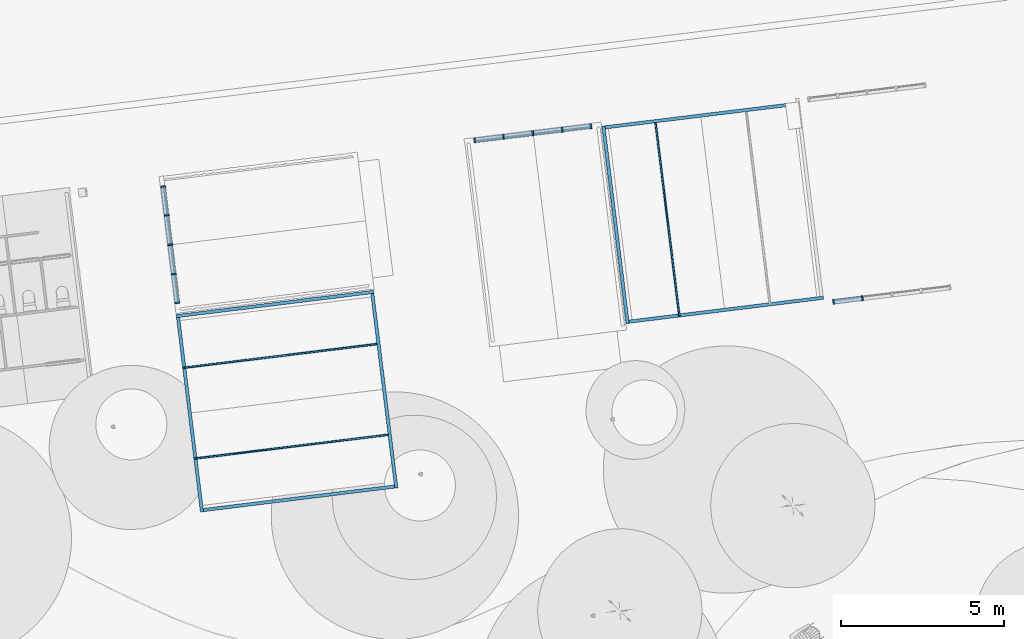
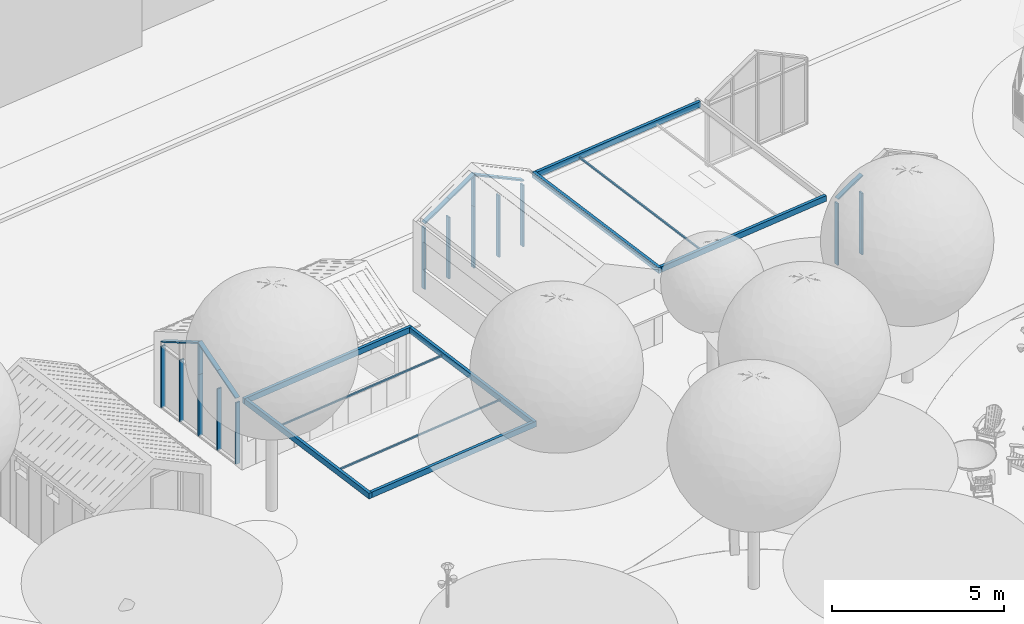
# One storey, part 1 of 75: 23 members, 10 beams, 3 elements without a shape of their own.
"""IFC2X3 building model written with IfcOpenShell, lengths in metres."""

from ifc_helpers import new_model, entity, si_unit, converted_unit, derived_unit, direction, frame, frame_2d, origin, origin_2d_with_axis, place, context, subcontext, project, spatial, rectangle, extrude, clip, halfspace, source, transform, mapped, material, type_object, type_shapes, element, aggregate, save


model = new_model("IFC2X3")

# Units and contexts
model_context = context("Model", 3, precision=1e-05, world=origin(), true_north=direction((6.123031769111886e-17, 1.0)))
body_context = subcontext(model_context, "Body", "Model", "MODEL_VIEW")
ifc_project = project(units=[si_unit("LENGTHUNIT", "METRE"), si_unit("AREAUNIT", "SQUARE_METRE"), si_unit("VOLUMEUNIT", "CUBIC_METRE"), converted_unit("PLANEANGLEUNIT", "DEGREE", entity("IfcRatioMeasure", 0.017453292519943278), si_unit("PLANEANGLEUNIT", "RADIAN"), dimensions=[0, 0, 0, 0, 0, 0, 0]), si_unit("MASSUNIT", "GRAM", prefix="KILO"), derived_unit("MASSDENSITYUNIT", [(si_unit("MASSUNIT", "GRAM", prefix="KILO"), 1), (si_unit("LENGTHUNIT", "METRE"), -3)]), derived_unit("IONCONCENTRATIONUNIT", [(si_unit("MASSUNIT", "GRAM", prefix="KILO"), 1), (si_unit("LENGTHUNIT", "METRE"), -3)]), derived_unit("MOMENTOFINERTIAUNIT", [(si_unit("LENGTHUNIT", "METRE"), 4)]), si_unit("TIMEUNIT", "SECOND"), si_unit("FREQUENCYUNIT", "HERTZ"), si_unit("THERMODYNAMICTEMPERATUREUNIT", "DEGREE_CELSIUS"), derived_unit("THERMALTRANSMITTANCEUNIT", [(si_unit("MASSUNIT", "GRAM", prefix="KILO"), 1), (si_unit("THERMODYNAMICTEMPERATUREUNIT", "KELVIN"), -1), (si_unit("TIMEUNIT", "SECOND"), -3)]), derived_unit("THERMALCONDUCTANCEUNIT", [(si_unit("MASSUNIT", "GRAM", prefix="KILO"), 1), (si_unit("THERMODYNAMICTEMPERATUREUNIT", "KELVIN"), -1), (si_unit("TIMEUNIT", "SECOND"), -3), (si_unit("LENGTHUNIT", "METRE"), 1)]), derived_unit("VOLUMETRICFLOWRATEUNIT", [(si_unit("LENGTHUNIT", "METRE"), 3), (si_unit("TIMEUNIT", "SECOND"), -1)]), derived_unit("MASSFLOWRATEUNIT", [(si_unit("MASSUNIT", "GRAM", prefix="KILO"), 1), (si_unit("TIMEUNIT", "SECOND"), -1)]), derived_unit("ROTATIONALFREQUENCYUNIT", [(si_unit("TIMEUNIT", "SECOND"), -1)]), si_unit("ELECTRICCURRENTUNIT", "AMPERE"), si_unit("ELECTRICVOLTAGEUNIT", "VOLT"), si_unit("POWERUNIT", "WATT"), si_unit("FORCEUNIT", "NEWTON", prefix="KILO"), si_unit("ILLUMINANCEUNIT", "LUX"), si_unit("LUMINOUSFLUXUNIT", "LUMEN"), si_unit("LUMINOUSINTENSITYUNIT", "CANDELA"), derived_unit("USERDEFINED", [(si_unit("MASSUNIT", "GRAM", prefix="KILO"), -1), (si_unit("LENGTHUNIT", "METRE"), -2), (si_unit("TIMEUNIT", "SECOND"), 3), (si_unit("LUMINOUSFLUXUNIT", "LUMEN"), 1)]), derived_unit("USERDEFINED", [(si_unit("MASSUNIT", "GRAM", prefix="KILO"), 1), (si_unit("TIMEUNIT", "SECOND"), -3), (si_unit("LENGTHUNIT", "METRE"), 3), (si_unit("ELECTRICCURRENTUNIT", "AMPERE"), -2)]), derived_unit("SOUNDPOWERUNIT", [(si_unit("MASSUNIT", "GRAM", prefix="KILO"), 1), (si_unit("TIMEUNIT", "SECOND"), -3), (si_unit("LENGTHUNIT", "METRE"), 2)]), derived_unit("SOUNDPRESSUREUNIT", [(si_unit("MASSUNIT", "GRAM", prefix="KILO"), 1), (si_unit("LENGTHUNIT", "METRE"), -1), (si_unit("TIMEUNIT", "SECOND"), -2)]), derived_unit("LINEARVELOCITYUNIT", [(si_unit("LENGTHUNIT", "METRE"), 1), (si_unit("TIMEUNIT", "SECOND"), -1)]), si_unit("PRESSUREUNIT", "PASCAL"), derived_unit("USERDEFINED", [(si_unit("MASSUNIT", "GRAM", prefix="KILO"), 1), (si_unit("LENGTHUNIT", "METRE"), -2), (si_unit("TIMEUNIT", "SECOND"), -2)]), derived_unit("LINEARFORCEUNIT", [(si_unit("MASSUNIT", "GRAM", prefix="KILO"), 1), (si_unit("TIMEUNIT", "SECOND"), -2)]), derived_unit("PLANARFORCEUNIT", [(si_unit("MASSUNIT", "GRAM", prefix="KILO"), 1), (si_unit("LENGTHUNIT", "METRE"), -1), (si_unit("TIMEUNIT", "SECOND"), -2)]), derived_unit("SPECIFICHEATCAPACITYUNIT", [(si_unit("THERMODYNAMICTEMPERATUREUNIT", "KELVIN"), -1), (si_unit("LENGTHUNIT", "METRE"), 2), (si_unit("TIMEUNIT", "SECOND"), -2)]), derived_unit("HEATINGVALUEUNIT", [(si_unit("LENGTHUNIT", "METRE"), 2), (si_unit("TIMEUNIT", "SECOND"), -2)]), derived_unit("VAPORPERMEABILITYUNIT", [(si_unit("LENGTHUNIT", "METRE"), -1), (si_unit("TIMEUNIT", "SECOND"), 1)]), derived_unit("DYNAMICVISCOSITYUNIT", [(si_unit("MASSUNIT", "GRAM", prefix="KILO"), 1), (si_unit("TIMEUNIT", "SECOND"), -1), (si_unit("LENGTHUNIT", "METRE"), -1)]), derived_unit("THERMALEXPANSIONCOEFFICIENTUNIT", [(si_unit("THERMODYNAMICTEMPERATUREUNIT", "KELVIN"), -1)]), derived_unit("MODULUSOFELASTICITYUNIT", [(si_unit("MASSUNIT", "GRAM", prefix="KILO"), 1), (si_unit("LENGTHUNIT", "METRE"), -1), (si_unit("TIMEUNIT", "SECOND"), -2)]), derived_unit("ISOTHERMALMOISTURECAPACITYUNIT", [(si_unit("LENGTHUNIT", "METRE"), 3), (si_unit("MASSUNIT", "GRAM", prefix="KILO"), -1)]), derived_unit("MOISTUREDIFFUSIVITYUNIT", [(si_unit("TIMEUNIT", "SECOND"), -1), (si_unit("LENGTHUNIT", "METRE"), 2)])], contexts=[model_context])

# Site, building, storey
site_placement = place(None, origin())
site = spatial("IfcSite", under=ifc_project, at=site_placement, Name="Default", CompositionType="ELEMENT")
building_placement = place(site_placement, origin())
building = spatial("IfcBuilding", under=site, at=building_placement, Name="Projeto", CompositionType="ELEMENT")
storey_placement = place(building_placement, origin())
storey = spatial("IfcBuildingStorey", under=building, at=storey_placement, Name="Nível 1", CompositionType="ELEMENT", Elevation=0.0)

# Beams
ifc_material_1 = material(Name=".ET - EST METALICA")
beam_type_1 = type_object("IfcBeamType", Name="23.25.30.11.14.14 - VIGA.MADEIRA:5x5", PredefinedType="NOTDEFINED")
beam_1_placement = place(storey_placement, frame((1.6405828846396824, 34.682747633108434, -0.08), z_axis=(0.0, 0.0, 1.0), x_axis=(0.9925113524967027, 0.12215242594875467, 0.0)))
element("IfcBeam", 1, at=beam_1_placement, inside=storey, type_object=beam_type_1, material=ifc_material_1, Name="23.25.30.11.14.14 - VIGA.MADEIRA:5x5", ObjectType="23.25.30.11.14.14 - VIGA.MADEIRA:5x5", context=body_context, shape_type="SweptSolid", body=[
    extrude(rectangle(XDim=0.2, YDim=0.10000000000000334, at=frame_2d((6.938893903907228e-18, 1.734723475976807e-17), x_axis=(1.0, 0.0))), frame((0.05000000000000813, 0.0, -0.10000000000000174), z_axis=(1.0, 0.0, 0.0), x_axis=(0.0, 0.0, -1.0)), (0.0, 0.0, 1.0), 5.9554481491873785),
])
beam_2_placement = place(storey_placement, frame((8.328565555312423, 29.46059407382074, -0.08000000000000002), z_axis=(0.0, 0.0, 1.0), x_axis=(-0.9925113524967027, -0.12215242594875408, 0.0)))
element("IfcBeam", 2, at=beam_2_placement, inside=storey, type_object=beam_type_1, material=ifc_material_1, Name="23.25.30.11.14.14 - VIGA.MADEIRA:5x5", ObjectType="23.25.30.11.14.14 - VIGA.MADEIRA:5x5", context=body_context, shape_type="SweptSolid", body=[
    extrude(rectangle(XDim=0.19999999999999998, YDim=0.10000000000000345, at=frame_2d((1.3877787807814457e-17, -6.591949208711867e-17), x_axis=(1.0, 0.0))), frame((-0.05000000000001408, 0.0, -0.1000000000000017), z_axis=(1.0, 0.0, 0.0), x_axis=(0.0, 0.0, -1.0)), (0.0, 0.0, 1.0), 6.053883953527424),
])
beam_3_placement = place(storey_placement, frame((-5.453891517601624, 29.640442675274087, 0.0), z_axis=(0.0, 0.0, 1.0), x_axis=(0.12215242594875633, -0.9925113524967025, 0.0)))
element("IfcBeam", 3, at=beam_3_placement, inside=storey, type_object=beam_type_1, material=ifc_material_1, Name="23.25.30.11.14.14 - VIGA.MADEIRA:5x5", ObjectType="23.25.30.11.14.14 - VIGA.MADEIRA:5x5", context=body_context, shape_type="SweptSolid", body=[
    extrude(rectangle(XDim=0.19999999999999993, YDim=0.10000000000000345, at=frame_2d((1.3877787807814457e-17, -2.6020852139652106e-16), x_axis=(1.0, 0.0))), frame((0.05000000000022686, 0.0, -0.1000000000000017), z_axis=(1.0, 0.0, 0.0), x_axis=(0.0, 0.0, -1.0)), (0.0, 0.0, 1.0), 5.99980747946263),
])
beam_4_placement = place(storey_placement, frame((-10.6760450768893, 22.95246000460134, 0.0), z_axis=(0.0, 0.0, 1.0), x_axis=(-0.12215242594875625, 0.9925113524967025, 0.0)))
element("IfcBeam", 4, at=beam_4_placement, inside=storey, type_object=beam_type_1, material=ifc_material_1, Name="23.25.30.11.14.14 - VIGA.MADEIRA:5x5", ObjectType="23.25.30.11.14.14 - VIGA.MADEIRA:5x5", context=body_context, shape_type="SweptSolid", body=[
    extrude(rectangle(XDim=0.19999999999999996, YDim=0.10000000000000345, at=frame_2d((6.938893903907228e-18, -2.6020852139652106e-16), x_axis=(1.0, 0.0))), frame((-0.05326094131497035, 0.0, -0.10000000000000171), z_axis=(1.0, 0.0, 0.0), x_axis=(0.0, 0.0, -1.0)), (0.0, 0.0, 1.0), 6.057144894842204),
])
beam_5_placement = place(storey_placement, frame((-4.7209769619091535, 23.685374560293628, 0.0), z_axis=(0.0, 0.0, 1.0), x_axis=(-0.9925113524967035, -0.12215242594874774, 0.0)))
element("IfcBeam", 5, at=beam_5_placement, inside=storey, type_object=beam_type_1, material=ifc_material_1, Name="23.25.30.11.14.14 - VIGA.MADEIRA:5x5", ObjectType="23.25.30.11.14.14 - VIGA.MADEIRA:5x5", context=body_context, shape_type="SweptSolid", body=[
    extrude(rectangle(XDim=0.19999999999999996, YDim=0.10000000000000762, at=frame_2d((-1.3877787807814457e-17, 2.1822821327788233e-15), x_axis=(1.0, 0.0))), frame((-0.04966155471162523, 0.0, -0.10000000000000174), z_axis=(1.0, 0.0, 0.0), x_axis=(0.0, 0.0, -1.0)), (0.0, 0.0, 1.0), 6.0977089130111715),
])
beam_6_placement = place(storey_placement, frame((-5.453891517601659, 29.640442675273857, 0.0), z_axis=(0.0, 0.0, 1.0), x_axis=(-0.9925113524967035, -0.1221524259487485, 0.0)))
element("IfcBeam", 6, at=beam_6_placement, inside=storey, type_object=beam_type_1, material=ifc_material_1, Name="23.25.30.11.14.14 - VIGA.MADEIRA:5x5", ObjectType="23.25.30.11.14.14 - VIGA.MADEIRA:5x5", context=body_context, shape_type="SweptSolid", body=[
    extrude(rectangle(XDim=0.19999999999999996, YDim=0.10000000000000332, at=frame_2d((-1.3877787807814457e-17, 4.3680337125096e-15), x_axis=(1.0, 0.0))), frame((-0.05000000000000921, 0.0, -0.10000000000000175), z_axis=(1.0, 0.0, 0.0), x_axis=(0.0, 0.0, -1.0)), (0.0, 0.0, 1.0), 6.100000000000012),
])
beam_7_placement = place(storey_placement, frame((1.6405828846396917, 34.68274763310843, -0.07999999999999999), z_axis=(0.0, 0.0, 1.0), x_axis=(0.12215242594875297, -0.992511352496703, 0.0)))
element("IfcBeam", 7, at=beam_7_placement, inside=storey, type_object=beam_type_1, material=ifc_material_1, Name="23.25.30.11.14.14 - VIGA.MADEIRA:5x5", ObjectType="23.25.30.11.14.14 - VIGA.MADEIRA:5x5", context=body_context, shape_type="SweptSolid", body=[
    extrude(rectangle(XDim=0.2, YDim=0.1000000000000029, at=frame_2d((6.938893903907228e-18, 7.979727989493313e-16), x_axis=(1.0, 0.0))), frame((-0.050000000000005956, 0.0, -0.10000000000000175), z_axis=(1.0, 0.0, 0.0), x_axis=(0.0, 0.0, -1.0)), (0.0, 0.0, 1.0), 6.1000000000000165),
])
beam_type_2 = type_object("IfcBeamType", Name="23.25.30.11.14.14 - VIGA.MADEIRA:5x5 2", PredefinedType="NOTDEFINED")
beam_8_placement = place(storey_placement, frame((-5.308226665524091, 28.047563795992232, -0.10500000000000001), z_axis=(-0.012509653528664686, -0.001539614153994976, 0.9999205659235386), x_axis=(-0.9924325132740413, -0.12214272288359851, -0.012604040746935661)))
element("IfcBeam", 8, at=beam_8_placement, inside=storey, type_object=beam_type_2, material=ifc_material_1, Name="23.25.30.11.14.14 - VIGA.MADEIRA:5x5 2", ObjectType="23.25.30.11.14.14 - VIGA.MADEIRA:5x5 2", context=body_context, shape_type="SweptSolid", body=[
    extrude(rectangle(XDim=0.04999999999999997, YDim=0.050000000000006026, at=frame_2d((0.0, -8.673617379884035e-18), x_axis=(0.0, 1.0))), frame((-0.000243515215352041, 0.0, -0.025002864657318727), z_axis=(0.9999308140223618, 0.0, 0.011762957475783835), x_axis=(0.0, -1.0, 0.0)), (0.0, 0.0, 1.0), 5.963827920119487),
])
beam_9_placement = place(storey_placement, frame((3.233461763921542, 34.82841248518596, -0.18499999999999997), z_axis=(0.001539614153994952, -0.012509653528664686, 0.9999205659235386), x_axis=(0.12214272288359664, -0.9924325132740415, -0.012604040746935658)))
element("IfcBeam", 9, at=beam_9_placement, inside=storey, type_object=beam_type_2, material=ifc_material_1, Name="23.25.30.11.14.14 - VIGA.MADEIRA:5x5 2", ObjectType="23.25.30.11.14.14 - VIGA.MADEIRA:5x5 2", context=body_context, shape_type="SweptSolid", body=[
    extrude(rectangle(XDim=0.04999999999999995, YDim=0.05000000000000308, at=frame_2d((2.688821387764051e-16, 1.734723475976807e-17), x_axis=(0.0, 1.0))), frame((-0.0002435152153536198, 0.0, -0.02500286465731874), z_axis=(0.999930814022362, 0.0, 0.011762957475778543), x_axis=(0.0, -1.0, 0.0)), (0.0, 0.0, 1.0), 5.963827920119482),
])
beam_10_placement = place(storey_placement, frame((-4.965892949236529, 25.266038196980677, -0.10500000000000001), z_axis=(-0.012509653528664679, -0.0015396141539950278, 0.9999205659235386), x_axis=(-0.9924325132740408, -0.12214272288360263, -0.012604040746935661)))
element("IfcBeam", 10, at=beam_10_placement, inside=storey, type_object=beam_type_2, material=ifc_material_1, Name="23.25.30.11.14.14 - VIGA.MADEIRA:5x5 2", ObjectType="23.25.30.11.14.14 - VIGA.MADEIRA:5x5 2", context=body_context, shape_type="SweptSolid", body=[
    extrude(rectangle(XDim=0.04999999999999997, YDim=0.05000000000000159, at=frame_2d((8.673617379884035e-18, 2.2152418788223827e-15), x_axis=(1.0, 0.0))), frame((-0.00024351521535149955, 0.0, -0.025002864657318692), z_axis=(0.9999308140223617, 0.0, 0.011762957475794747), x_axis=(0.011762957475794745, 0.0, -0.9999308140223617)), (0.0, 0.0, 1.0), 5.963827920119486),
])

# Curtain wall, members
curtain_wall_type = type_object("IfcCurtainWallType", Name="Parede cortina:Vitrine", PredefinedType="NOTDEFINED")
curtain_wall_1_placement = place(storey_placement, origin())
curtain_wall_1 = element("IfcCurtainWall", 11, at=curtain_wall_1_placement, inside=storey, type_object=curtain_wall_type, Name="Parede cortina:Vitrine", ObjectType="Parede cortina:Vitrine")
ifc_material_2 = material(Name="Alumín.")
member_type_1 = type_object("IfcMemberType", Name="Montante retangular:50 x 150mm", PredefinedType="MULLION", material=ifc_material_2)
shared_shape_1 = source(origin(), body_context, "Body", "SweptSolid", [
    extrude(rectangle(XDim=0.14999999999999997, YDim=0.05, at=origin_2d_with_axis()), frame((0.0, 0.0, -2.1829684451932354), z_axis=(0.0, 0.0, 1.0), x_axis=(0.0, -1.0, 0.0)), (0.0, 0.0, 1.0), 2.1829684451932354),
])
type_shapes(member_type_1, [shared_shape_1])
member_1_placement = place(curtain_wall_1_placement, frame((0.37515996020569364, 34.61830002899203, -2.5799999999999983), z_axis=(0.0, 0.0, -1.0), x_axis=(-0.992511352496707, -0.12215242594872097, 0.0)))
member_1 = element("IfcMember", 12, at=member_1_placement, type_object=member_type_1, material=ifc_material_2, Name="Montante retangular:50 x 150mm", ObjectType="Montante retangular:50 x 150mm", context=body_context, shape_type="MappedRepresentation", body=[
    mapped(shared_shape_1, transform((0.0, 0.0, 0.0), scale=1.0)),
])
member_2_placement = place(curtain_wall_1_placement, frame((-0.5267959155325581, 34.50729263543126, -2.5799999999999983), z_axis=(0.0, 0.0, -1.0), x_axis=(-0.992511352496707, -0.12215242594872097, 0.0)))
member_2 = element("IfcMember", 13, at=member_2_placement, type_object=member_type_1, material=ifc_material_2, Name="Montante retangular:50 x 150mm", ObjectType="Montante retangular:50 x 150mm", context=body_context, shape_type="MappedRepresentation", body=[
    mapped(shared_shape_1, transform((0.0, 0.0, 0.0), scale=1.0)),
])
member_3_placement = place(curtain_wall_1_placement, frame((-1.4287517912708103, 34.396285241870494, -2.5799999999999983), z_axis=(0.0, 0.0, -1.0), x_axis=(-0.992511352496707, -0.12215242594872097, 0.0)))
member_3 = element("IfcMember", 14, at=member_3_placement, type_object=member_type_1, material=ifc_material_2, Name="Montante retangular:50 x 150mm", ObjectType="Montante retangular:50 x 150mm", context=body_context, shape_type="MappedRepresentation", body=[
    mapped(shared_shape_1, transform((0.0, 0.0, 0.0), scale=1.0)),
])

curtain_wall_2_placement = place(storey_placement, origin())
curtain_wall_2 = element("IfcCurtainWall", 15, at=curtain_wall_2_placement, inside=storey, type_object=curtain_wall_type, Name="Parede cortina:Vitrine", ObjectType="Parede cortina:Vitrine")
member_4_placement = place(curtain_wall_2_placement, frame((-11.753862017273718, 31.994538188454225, -2.579999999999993), z_axis=(0.0, 0.0, -1.0), x_axis=(0.12215242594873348, -0.9925113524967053, 0.0)))
member_4 = element("IfcMember", 16, at=member_4_placement, type_object=member_type_1, material=ifc_material_2, Name="Montante retangular:50 x 150mm", ObjectType="Montante retangular:50 x 150mm", context=body_context, shape_type="MappedRepresentation", body=[
    mapped(shared_shape_1, transform((0.0, 0.0, 0.0), scale=1.0)),
])
member_5_placement = place(curtain_wall_2_placement, frame((-11.64285462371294, 31.092582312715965, -2.579999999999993), z_axis=(0.0, 0.0, -1.0), x_axis=(0.12215242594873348, -0.9925113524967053, 0.0)))
member_5 = element("IfcMember", 17, at=member_5_placement, type_object=member_type_1, material=ifc_material_2, Name="Montante retangular:50 x 150mm", ObjectType="Montante retangular:50 x 150mm", context=body_context, shape_type="MappedRepresentation", body=[
    mapped(shared_shape_1, transform((0.0, 0.0, 0.0), scale=1.0)),
])
member_6_placement = place(curtain_wall_2_placement, frame((-11.531847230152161, 30.19062643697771, -2.579999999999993), z_axis=(0.0, 0.0, -1.0), x_axis=(0.12215242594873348, -0.9925113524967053, 0.0)))
member_6 = element("IfcMember", 18, at=member_6_placement, type_object=member_type_1, material=ifc_material_2, Name="Montante retangular:50 x 150mm", ObjectType="Montante retangular:50 x 150mm", context=body_context, shape_type="MappedRepresentation", body=[
    mapped(shared_shape_1, transform((0.0, 0.0, 0.0), scale=1.0)),
])

# Curtain wall, member
curtain_wall_3_placement = place(storey_placement, origin())
curtain_wall_3 = element("IfcCurtainWall", 19, at=curtain_wall_3_placement, inside=storey, type_object=curtain_wall_type, Name="Parede cortina:Vitrine", ObjectType="Parede cortina:Vitrine")
member_7_placement = place(curtain_wall_3_placement, frame((9.571744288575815, 29.45497219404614, -2.579999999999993), z_axis=(0.0, 0.0, -1.0), x_axis=(0.9925113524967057, 0.1221524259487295, 0.0)))
member_7 = element("IfcMember", 20, at=member_7_placement, type_object=member_type_1, material=ifc_material_2, Name="Montante retangular:50 x 150mm", ObjectType="Montante retangular:50 x 150mm", context=body_context, shape_type="MappedRepresentation", body=[
    mapped(shared_shape_1, transform((0.0, 0.0, 0.0), scale=1.0)),
])

# Member
member_type_2 = type_object("IfcMemberType", Name="Montante retangular:50 x 150mm", PredefinedType="MULLION", material=ifc_material_2)
shared_shape_2 = source(origin(), body_context, "Body", "SweptSolid", [
    clip(extrude(rectangle(XDim=0.14999999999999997, YDim=0.05, at=origin_2d_with_axis()), frame((0.0, 0.0, -1.1418157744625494), z_axis=(0.0, 0.0, 1.0), x_axis=(0.0, -1.0, 0.0)), (0.0, 0.0, 1.0), 1.1418157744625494), halfspace(frame((0.0, 0.0, -1.1002087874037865), z_axis=(0.8571673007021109, 0.0, -0.5150380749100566), x_axis=(0.5150380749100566, 0.0, 0.8571673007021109)), False)),
])
type_shapes(member_type_2, [shared_shape_2])
member_8_placement = place(curtain_wall_1_placement, frame((-0.5267959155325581, 34.50729263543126, -0.39703155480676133), z_axis=(0.0, 0.0, -1.0), x_axis=(-0.992511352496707, -0.12215242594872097, 0.0)))
member_8 = element("IfcMember", 21, at=member_8_placement, type_object=member_type_2, material=ifc_material_2, Name="Montante retangular:50 x 150mm", ObjectType="Montante retangular:50 x 150mm", context=body_context, shape_type="MappedRepresentation", body=[
    mapped(shared_shape_2, transform((0.0, 0.0, 0.0), scale=1.0)),
])

member_9_placement = place(curtain_wall_2_placement, frame((-11.64285462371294, 31.092582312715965, -0.39703155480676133), z_axis=(0.0, 0.0, -1.0), x_axis=(0.12215242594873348, -0.9925113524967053, 0.0)))
member_9 = element("IfcMember", 22, at=member_9_placement, type_object=member_type_2, material=ifc_material_2, Name="Montante retangular:50 x 150mm", ObjectType="Montante retangular:50 x 150mm", context=body_context, shape_type="MappedRepresentation", body=[
    mapped(shared_shape_2, transform((0.0, 0.0, 0.0), scale=1.0)),
])

member_type_3 = type_object("IfcMemberType", Name="Montante retangular:50 x 150mm", PredefinedType="MULLION", material=ifc_material_2)
shared_shape_3 = source(origin(), body_context, "Body", "SweptSolid", [
    clip(extrude(rectangle(XDim=0.14999999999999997, YDim=0.05, at=frame_2d((0.0, 5.898059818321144e-17), x_axis=(1.0, 0.0))), frame((-0.025, 0.0, -1.0292357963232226), z_axis=(0.0, 0.0, 1.0), x_axis=(0.0, -1.0, 0.0)), (0.0, 0.0, 1.0), 1.0292357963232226), halfspace(frame((0.0, -0.3048, 0.0), z_axis=(-0.5150380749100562, 0.0, 0.8571673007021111), x_axis=(-0.8571673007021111, 0.0, -0.5150380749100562)), False)),
])
type_shapes(member_type_3, [shared_shape_3])
member_10_placement = place(curtain_wall_1_placement, frame((-2.3307076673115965, 34.2852778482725, -0.23490239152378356), z_axis=(-0.8763355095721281, -0.10785419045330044, -0.46947156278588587), x_axis=(-0.4659558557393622, -0.05734709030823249, 0.8829475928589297)))
member_10 = element("IfcMember", 23, at=member_10_placement, type_object=member_type_3, material=ifc_material_2, Name="Montante retangular:50 x 150mm", ObjectType="Montante retangular:50 x 150mm", context=body_context, shape_type="MappedRepresentation", body=[
    mapped(shared_shape_3, transform((0.0, 0.0, 0.0), scale=1.0)),
])

member_type_4 = type_object("IfcMemberType", Name="Montante retangular:50 x 150mm", PredefinedType="MULLION", material=ifc_material_2)
shared_shape_4 = source(origin(), body_context, "Body", "SweptSolid", [
    extrude(rectangle(XDim=0.15, YDim=0.05000000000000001, at=frame_2d((-6.938893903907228e-18, -5.898059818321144e-17), x_axis=(1.0, 0.0))), frame((-0.025, 0.0, -1.0210111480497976), z_axis=(0.0, 0.0, 1.0), x_axis=(0.0, -1.0, 0.0)), (0.0, 0.0, 1.0), 1.0210111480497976),
])
type_shapes(member_type_4, [shared_shape_4])
member_11_placement = place(curtain_wall_1_placement, frame((-0.5195883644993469, 34.508179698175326, 0.7353527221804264), z_axis=(-0.8763355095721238, -0.10785419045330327, 0.4694715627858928), x_axis=(0.46595585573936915, 0.05734709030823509, 0.8829475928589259)))
member_11 = element("IfcMember", 24, at=member_11_placement, type_object=member_type_4, material=ifc_material_2, Name="Montante retangular:50 x 150mm", ObjectType="Montante retangular:50 x 150mm", context=body_context, shape_type="MappedRepresentation", body=[
    mapped(shared_shape_4, transform((0.0, 0.0, 0.0), scale=1.0)),
])

member_12_placement = place(curtain_wall_2_placement, frame((-11.643741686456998, 31.099789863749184, 0.7353527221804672), z_axis=(0.10785419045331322, -0.8763355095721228, 0.4694715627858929), x_axis=(-0.057347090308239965, 0.4659558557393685, 0.8829475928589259)))
member_12 = element("IfcMember", 25, at=member_12_placement, type_object=member_type_4, material=ifc_material_2, Name="Montante retangular:50 x 150mm", ObjectType="Montante retangular:50 x 150mm", context=body_context, shape_type="MappedRepresentation", body=[
    mapped(shared_shape_4, transform((0.0, 0.0, 0.0), scale=1.0)),
])

member_type_5 = type_object("IfcMemberType", Name="Montante retangular:50 x 150mm", PredefinedType="MULLION", material=ifc_material_2)
shared_shape_5 = source(origin(), body_context, "Body", "SweptSolid", [
    clip(extrude(rectangle(XDim=0.14999999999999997, YDim=0.05, at=frame_2d((-2.0816681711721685e-17, 0.0), x_axis=(1.0, 0.0))), frame((-0.025, 0.0, -1.0292357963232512), z_axis=(0.0, 0.0, 1.0), x_axis=(0.0, -1.0, 0.0)), (0.0, 0.0, 1.0), 1.0292357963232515), halfspace(frame((0.0, -0.3048, -1.0292357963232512), z_axis=(-0.5150380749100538, 0.0, -0.8571673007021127), x_axis=(-0.8571673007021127, 0.0, 0.5150380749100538)), False)),
])
type_shapes(member_type_5, [shared_shape_5])
member_13_placement = place(curtain_wall_1_placement, frame((0.3751599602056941, 34.61830002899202, 0.25601702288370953), z_axis=(-0.876335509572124, -0.10785419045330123, 0.46947156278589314), x_axis=(0.4659558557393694, 0.05734709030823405, 0.8829475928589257)))
member_13 = element("IfcMember", 26, at=member_13_placement, type_object=member_type_5, material=ifc_material_2, Name="Montante retangular:50 x 150mm", ObjectType="Montante retangular:50 x 150mm", context=body_context, shape_type="MappedRepresentation", body=[
    mapped(shared_shape_5, transform((0.0, 0.0, 0.0), scale=1.0)),
])

member_14_placement = place(curtain_wall_3_placement, frame((9.571744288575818, 29.454972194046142, 0.25601702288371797), z_axis=(0.8763355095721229, 0.10785419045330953, 0.4694715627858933), x_axis=(-0.4659558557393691, -0.057347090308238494, 0.8829475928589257)))
member_14 = element("IfcMember", 27, at=member_14_placement, type_object=member_type_5, material=ifc_material_2, Name="Montante retangular:50 x 150mm", ObjectType="Montante retangular:50 x 150mm", context=body_context, shape_type="MappedRepresentation", body=[
    mapped(shared_shape_5, transform((0.0, 0.0, 0.0), scale=1.0)),
])

member_type_6 = type_object("IfcMemberType", Name="Montante retangular:50 x 150mm", PredefinedType="MULLION", material=ifc_material_2)
shared_shape_6 = source(origin(), body_context, "Body", "SweptSolid", [
    clip(extrude(rectangle(XDim=0.15, YDim=0.05, at=frame_2d((2.0816681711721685e-17, 5.898059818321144e-17), x_axis=(1.0, 0.0))), frame((-0.025, 0.0, -1.0575500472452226), z_axis=(0.0, 0.0, 1.0), x_axis=(0.0, -1.0, 0.0)), (0.0, 0.0, 1.0), 1.0575500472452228), halfspace(frame((-0.024999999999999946, 0.0, -1.0159430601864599), z_axis=(-0.8571673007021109, 0.0, -0.5150380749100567), x_axis=(-0.5150380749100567, 0.0, 0.8571673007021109)), False)),
])
type_shapes(member_type_6, [shared_shape_6])
member_15_placement = place(curtain_wall_1_placement, frame((-1.4287517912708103, 34.39628524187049, 0.248294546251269), z_axis=(-0.8763355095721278, -0.10785419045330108, -0.46947156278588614), x_axis=(-0.4659558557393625, -0.05734709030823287, 0.8829475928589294)))
member_15 = element("IfcMember", 28, at=member_15_placement, type_object=member_type_6, material=ifc_material_2, Name="Montante retangular:50 x 150mm", ObjectType="Montante retangular:50 x 150mm", context=body_context, shape_type="MappedRepresentation", body=[
    mapped(shared_shape_6, transform((0.0, 0.0, 0.0), scale=1.0)),
])

member_type_7 = type_object("IfcMemberType", Name="Montante retangular:50 x 150mm", PredefinedType="MULLION", material=ifc_material_2)
shared_shape_7 = source(origin(), body_context, "Body", "SweptSolid", [
    extrude(rectangle(XDim=0.14999999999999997, YDim=0.05, at=origin_2d_with_axis()), frame((-0.025, 0.0, -2.1829684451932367), z_axis=(0.0, 0.0, 1.0), x_axis=(0.0, -1.0, 0.0)), (0.0, 0.0, 1.0), 2.1829684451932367),
])
type_shapes(member_type_7, [shared_shape_7])
member_16_placement = place(curtain_wall_1_placement, frame((-2.330707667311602, 34.2852778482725, -2.5799999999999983), z_axis=(0.0, 0.0, -1.0), x_axis=(-0.992511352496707, -0.12215242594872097, 0.0)))
member_16 = element("IfcMember", 29, at=member_16_placement, type_object=member_type_7, material=ifc_material_2, Name="Montante retangular:50 x 150mm", ObjectType="Montante retangular:50 x 150mm", context=body_context, shape_type="MappedRepresentation", body=[
    mapped(shared_shape_7, transform((0.0, 0.0, 0.0), scale=1.0)),
])

member_17_placement = place(curtain_wall_2_placement, frame((-11.420839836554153, 29.28867056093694, -2.579999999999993), z_axis=(0.0, 0.0, -1.0), x_axis=(0.12215242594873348, -0.9925113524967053, 0.0)))
member_17 = element("IfcMember", 30, at=member_17_placement, type_object=member_type_7, material=ifc_material_2, Name="Montante retangular:50 x 150mm", ObjectType="Montante retangular:50 x 150mm", context=body_context, shape_type="MappedRepresentation", body=[
    mapped(shared_shape_7, transform((0.0, 0.0, 0.0), scale=1.0)),
])

member_type_8 = type_object("IfcMemberType", Name="Montante retangular:50 x 150mm", PredefinedType="MULLION", material=ifc_material_2)
shared_shape_8 = source(origin(), body_context, "Body", "SweptSolid", [
    extrude(rectangle(XDim=0.14999999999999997, YDim=0.05, at=origin_2d_with_axis()), frame((-0.025, 0.0, -2.182968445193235), z_axis=(0.0, 0.0, 1.0), x_axis=(0.0, -1.0, 0.0)), (0.0, 0.0, 1.0), 2.182968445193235),
])
type_shapes(member_type_8, [shared_shape_8])
member_18_placement = place(curtain_wall_1_placement, frame((1.2771158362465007, 34.72930742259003, -0.39703155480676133), z_axis=(0.0, 0.0, 1.0), x_axis=(0.992511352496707, 0.12215242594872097, 0.0)))
member_18 = element("IfcMember", 31, at=member_18_placement, type_object=member_type_8, material=ifc_material_2, Name="Montante retangular:50 x 150mm", ObjectType="Montante retangular:50 x 150mm", context=body_context, shape_type="MappedRepresentation", body=[
    mapped(shared_shape_8, transform((0.0, 0.0, 0.0), scale=1.0)),
])

aggregate(curtain_wall_1, [member_1, member_2, member_8, member_3, member_10, member_11, member_13, member_15, member_16, member_18])

member_19_placement = place(curtain_wall_2_placement, frame((-11.864869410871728, 32.896494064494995, -0.39703155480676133), z_axis=(0.0, 0.0, 1.0), x_axis=(-0.12215242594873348, 0.9925113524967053, 0.0)))
member_19 = element("IfcMember", 32, at=member_19_placement, type_object=member_type_8, material=ifc_material_2, Name="Montante retangular:50 x 150mm", ObjectType="Montante retangular:50 x 150mm", context=body_context, shape_type="MappedRepresentation", body=[
    mapped(shared_shape_8, transform((0.0, 0.0, 0.0), scale=1.0)),
])

member_20_placement = place(curtain_wall_3_placement, frame((8.669788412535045, 29.34396480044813, -0.39703155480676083), z_axis=(0.0, 0.0, 1.0), x_axis=(-0.9925113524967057, -0.1221524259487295, 0.0)))
member_20 = element("IfcMember", 33, at=member_20_placement, type_object=member_type_8, material=ifc_material_2, Name="Montante retangular:50 x 150mm", ObjectType="Montante retangular:50 x 150mm", context=body_context, shape_type="MappedRepresentation", body=[
    mapped(shared_shape_8, transform((0.0, 0.0, 0.0), scale=1.0)),
])

aggregate(curtain_wall_3, [member_7, member_14, member_20])

member_type_9 = type_object("IfcMemberType", Name="Montante retangular:50 x 150mm", PredefinedType="MULLION", material=ifc_material_2)
shared_shape_9 = source(origin(), body_context, "Body", "SweptSolid", [
    clip(extrude(rectangle(XDim=0.14999999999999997, YDim=0.05, at=origin_2d_with_axis()), frame((-0.025, 0.0, -1.0292357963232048), z_axis=(0.0, 0.0, 1.0), x_axis=(0.0, -1.0, 0.0)), (0.0, 0.0, 1.0), 1.0292357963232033), halfspace(frame((0.0, -0.3048, 0.0), z_axis=(-0.5150380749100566, 0.0, 0.8571673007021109), x_axis=(-0.8571673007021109, 0.0, -0.5150380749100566)), False)),
])
type_shapes(member_type_9, [shared_shape_9])
member_21_placement = place(curtain_wall_2_placement, frame((-11.420839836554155, 29.28867056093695, -0.23490239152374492), z_axis=(0.10785419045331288, -0.8763355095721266, -0.4694715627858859), x_axis=(0.05734709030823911, -0.46595585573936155, 0.8829475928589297)))
member_21 = element("IfcMember", 34, at=member_21_placement, type_object=member_type_9, material=ifc_material_2, Name="Montante retangular:50 x 150mm", ObjectType="Montante retangular:50 x 150mm", context=body_context, shape_type="MappedRepresentation", body=[
    mapped(shared_shape_9, transform((0.0, 0.0, 0.0), scale=1.0)),
])

member_type_10 = type_object("IfcMemberType", Name="Montante retangular:50 x 150mm", PredefinedType="MULLION", material=ifc_material_2)
shared_shape_10 = source(origin(), body_context, "Body", "SweptSolid", [
    clip(extrude(rectangle(XDim=0.14999999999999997, YDim=0.05, at=frame_2d((1.3877787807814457e-17, 5.898059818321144e-17), x_axis=(1.0, 0.0))), frame((-0.025, 0.0, -1.0292357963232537), z_axis=(0.0, 0.0, 1.0), x_axis=(0.0, -1.0, 0.0)), (0.0, 0.0, 1.0), 1.029235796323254), halfspace(frame((0.0, -0.3048, -1.0292357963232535), z_axis=(-0.5150380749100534, 0.0, -0.8571673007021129), x_axis=(-0.8571673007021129, 0.0, 0.5150380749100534)), False)),
])
type_shapes(member_type_10, [shared_shape_10])
member_22_placement = place(curtain_wall_2_placement, frame((-11.753862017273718, 31.99453818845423, 0.25601702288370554), z_axis=(0.10785419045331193, -0.8763355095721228, 0.46947156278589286), x_axis=(-0.05734709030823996, 0.46595585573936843, 0.8829475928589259)))
member_22 = element("IfcMember", 35, at=member_22_placement, type_object=member_type_10, material=ifc_material_2, Name="Montante retangular:50 x 150mm", ObjectType="Montante retangular:50 x 150mm", context=body_context, shape_type="MappedRepresentation", body=[
    mapped(shared_shape_10, transform((0.0, 0.0, 0.0), scale=1.0)),
])

member_type_11 = type_object("IfcMemberType", Name="Montante retangular:50 x 150mm", PredefinedType="MULLION", material=ifc_material_2)
shared_shape_11 = source(origin(), body_context, "Body", "SweptSolid", [
    clip(extrude(rectangle(XDim=0.14999999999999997, YDim=0.05, at=origin_2d_with_axis()), frame((-0.025, 0.0, -1.0575500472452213), z_axis=(0.0, 0.0, 1.0), x_axis=(0.0, -1.0, 0.0)), (0.0, 0.0, 1.0), 1.0575500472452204), halfspace(frame((-0.024999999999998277, 0.0, -1.0159430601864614), z_axis=(-0.8571673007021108, 0.0, -0.5150380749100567), x_axis=(-0.5150380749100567, 0.0, 0.8571673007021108)), False)),
])
type_shapes(member_type_11, [shared_shape_11])
member_23_placement = place(curtain_wall_2_placement, frame((-11.531847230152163, 30.190626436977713, 0.24829454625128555), z_axis=(0.10785419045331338, -0.8763355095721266, -0.46947156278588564), x_axis=(0.057347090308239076, -0.46595585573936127, 0.8829475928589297)))
member_23 = element("IfcMember", 36, at=member_23_placement, type_object=member_type_11, material=ifc_material_2, Name="Montante retangular:50 x 150mm", ObjectType="Montante retangular:50 x 150mm", context=body_context, shape_type="MappedRepresentation", body=[
    mapped(shared_shape_11, transform((0.0, 0.0, 0.0), scale=1.0)),
])

aggregate(curtain_wall_2, [member_4, member_5, member_9, member_6, member_21, member_12, member_22, member_23, member_17, member_19])

save(model, "model.ifc")
